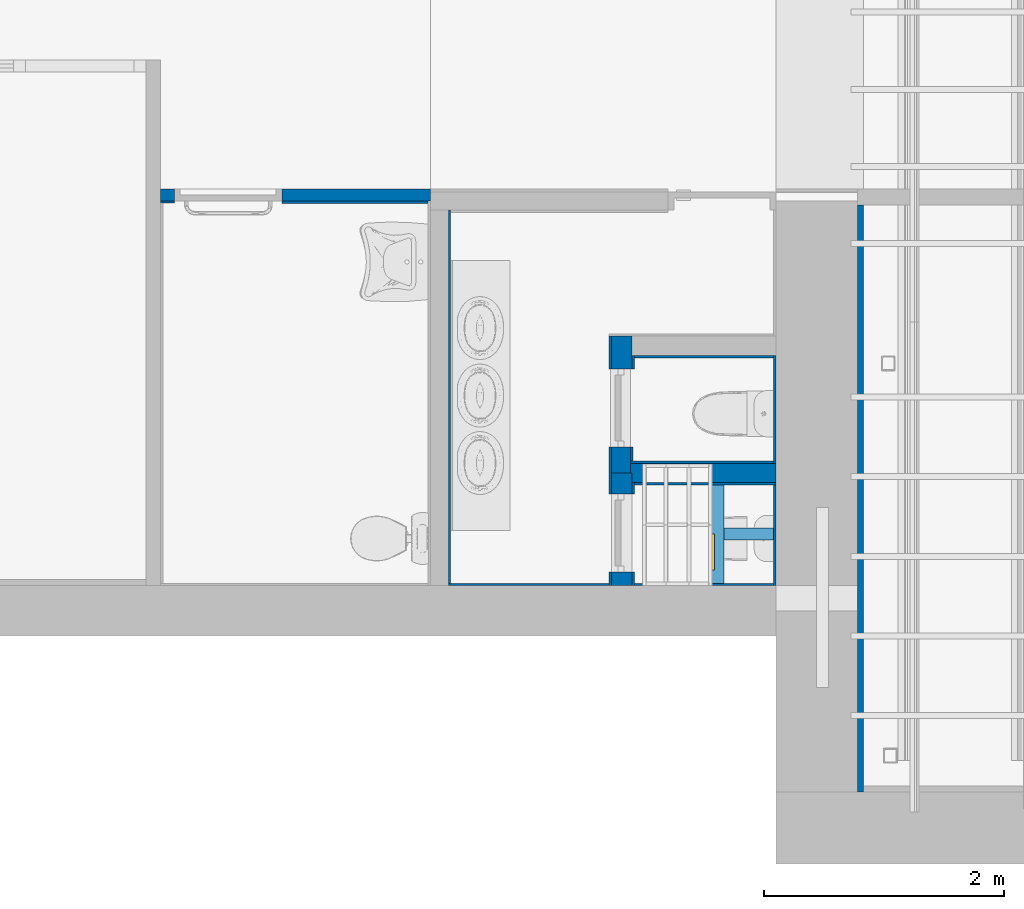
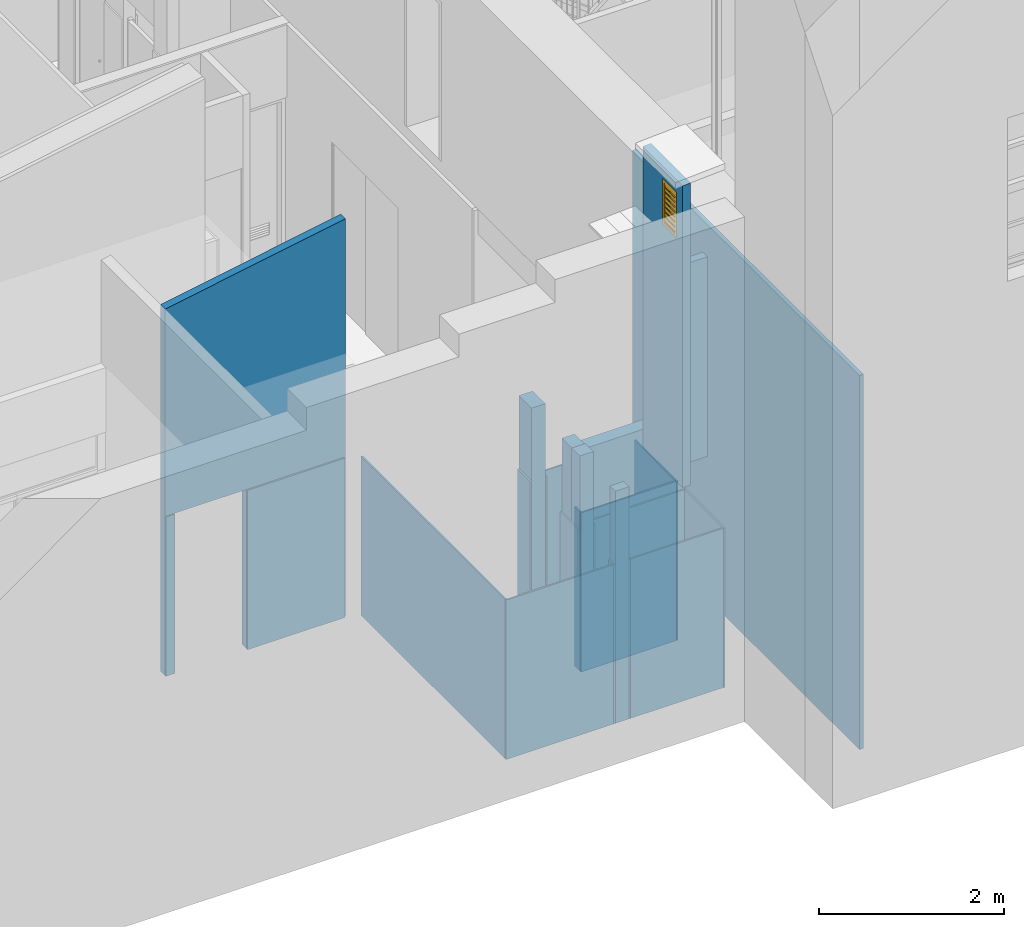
"""IFC2X3 building model written with IfcOpenShell, lengths in metres."""

import ifcopenshell
import ifcopenshell.guid

model = None  # the IFC model being written
_history = None  # IfcOwnerHistory: only IFC2X3 demands one
_inside = {}  # id of a spatial element -> (the spatial element, [elements in it])
_under = {}  # id of a project, library or spatial element -> (it, [spatial elements below it])
_declared = {}  # id of a project -> (the project, [libraries it declares])
_typed = {}  # id of a type object -> (the type object, [elements of that type])
_made_of = {}  # id of a material, layer set ... -> (it, [elements and type objects made of it])


def new_model(schema):
    """Start an empty IFC model of exactly this schema.

    Asked for "IFC4X3", IfcOpenShell would pick the latest addendum, in which some entities
    have other attributes; the version numbers below select the first issue.
    IFC2X3 requires an IfcOwnerHistory on every rooted entity: one is made here for all.
    """
    global model, _history
    if schema == "IFC4X3":
        model = ifcopenshell.file(schema_version=(4, 3, 0, 0))
    else:
        model = ifcopenshell.file(schema=schema)
    _inside.clear()
    _under.clear()
    _declared.clear()
    _typed.clear()
    _made_of.clear()
    _history = None
    if model.schema == "IFC2X3":
        org = make("IfcOrganization", Name="unknown")
        user = make(
            "IfcPersonAndOrganization",
            ThePerson=make("IfcPerson", FamilyName="unknown"),
            TheOrganization=org,
        )
        app = make(
            "IfcApplication",
            ApplicationDeveloper=org,
            Version="unknown",
            ApplicationFullName="unknown",
            ApplicationIdentifier="unknown",
        )
        _history = make(
            "IfcOwnerHistory",
            OwningUser=user,
            OwningApplication=app,
            ChangeAction="ADDED",
            CreationDate=0,
        )
    return model


def make(cls, **values):
    """One entity of the class cls with the attributes given. An attribute that is None is left unset."""
    return model.create_entity(
        cls, **{name: value for name, value in values.items() if value is not None}
    )


def entity(cls, *values):
    """Any entity or typed value of the class cls, its attributes in the order of the schema. None: left unset."""
    e = model.create_entity(cls)
    for i, value in enumerate(values):
        if value is not None:
            e[i] = value
    return e


def rooted(cls, **values):
    """An entity with a GlobalId (a new one), such as an element, a storey or a relation."""
    return make(cls, GlobalId=ifcopenshell.guid.new(), OwnerHistory=_history, **values)


def si_unit(unit_type, name, prefix=None):
    """IfcSIUnit, for example si_unit("LENGTHUNIT", "METRE", prefix="MILLI")."""
    return make("IfcSIUnit", UnitType=unit_type, Prefix=prefix, Name=name)


def converted_unit(unit_type, name, factor, base, dimensions=None, offset=None):
    """IfcConversionBasedUnit, such as the inch: factor (a typed value) times the base unit."""
    return make(
        "IfcConversionBasedUnit"
        if offset is None
        else "IfcConversionBasedUnitWithOffset",
        ConversionOffset=offset,
        Dimensions=None
        if dimensions is None
        else entity("IfcDimensionalExponents", *dimensions),
        UnitType=unit_type,
        Name=name,
        ConversionFactor=make(
            "IfcMeasureWithUnit", ValueComponent=factor, UnitComponent=base
        ),
    )


def derived_unit(unit_type, elements):
    """IfcDerivedUnit: a product of units, each with its exponent."""
    return make(
        "IfcDerivedUnit",
        Elements=[
            make("IfcDerivedUnitElement", Unit=unit, Exponent=power)
            for unit, power in elements
        ],
        UnitType=unit_type,
    )


def assignment(units):
    """IfcUnitAssignment: the units of a project."""
    return None if units is None else make("IfcUnitAssignment", Units=units)


def point(xyz):
    """IfcCartesianPoint."""
    return None if xyz is None else make("IfcCartesianPoint", Coordinates=xyz)


def direction(xyz):
    """IfcDirection."""
    return None if xyz is None else make("IfcDirection", DirectionRatios=xyz)


def frame(location, z_axis=None, x_axis=None):
    """IfcAxis2Placement3D, a coordinate frame: its origin and axes. An axis left out is left unset."""
    return make(
        "IfcAxis2Placement3D",
        Location=point(location),
        Axis=direction(z_axis),
        RefDirection=direction(x_axis),
    )


def frame_2d(location, x_axis=None):
    """IfcAxis2Placement2D, a coordinate frame in the plane: its origin and x axis."""
    return make(
        "IfcAxis2Placement2D", Location=point(location), RefDirection=direction(x_axis)
    )


def origin():
    """The frame at (0, 0, 0) with its axes left unset."""
    return frame((0.0, 0.0, 0.0))


def place(relative_to, where):
    """IfcLocalPlacement: puts the frame where relative to a parent placement (None: the world)."""
    return make(
        "IfcLocalPlacement", PlacementRelTo=relative_to, RelativePlacement=where
    )


def context(
    kind, dimensions, precision=None, world=None, true_north=None, identifier=None
):
    """IfcGeometricRepresentationContext, for example the 3D "Model" context."""
    return make(
        "IfcGeometricRepresentationContext",
        ContextIdentifier=identifier,
        ContextType=kind,
        CoordinateSpaceDimension=dimensions,
        Precision=precision,
        WorldCoordinateSystem=world,
        TrueNorth=true_north,
    )


def subcontext(parent, identifier, kind, view, scale=None):
    """IfcGeometricRepresentationSubContext, for example "Body" below "Model"."""
    return make(
        "IfcGeometricRepresentationSubContext",
        ContextIdentifier=identifier,
        ContextType=kind,
        ParentContext=parent,
        TargetScale=scale,
        TargetView=view,
    )


def project(units=None, contexts=None):
    """IfcProject with its units and contexts."""
    return rooted(
        "IfcProject",
        Name="project",
        RepresentationContexts=contexts,
        UnitsInContext=assignment(units),
    )


def spatial(cls, under=None, at=None, **own):
    """A site, building, storey or space (cls), placed at a placement, below another one or the project."""
    s = rooted(cls, ObjectPlacement=at, **own)
    if under is not None:
        _under.setdefault(under.id(), (under, []))[1].append(s)
    return s


def polyline(points):
    """IfcPolyline through the points."""
    return make("IfcPolyline", Points=[point(p) for p in points])


def profile(cls, at=None, kind="AREA", **sizes):
    """A parametric profile (cls). Its sizes go by their IFC names, for example OverallWidth=200.0."""
    return make(cls, ProfileType=kind, Position=at, **sizes)


def rectangle(**sizes):
    """IfcRectangleProfileDef."""
    return profile("IfcRectangleProfileDef", **sizes)


def outline(outer, holes=None, kind="AREA"):
    """IfcArbitraryClosedProfileDef: a profile drawn as a closed curve; with holes, ...WithVoids."""
    if holes is None:
        return make("IfcArbitraryClosedProfileDef", ProfileType=kind, OuterCurve=outer)
    return make(
        "IfcArbitraryProfileDefWithVoids",
        ProfileType=kind,
        OuterCurve=outer,
        InnerCurves=holes,
    )


def extrude(swept, where, along, depth):
    """IfcExtrudedAreaSolid: the profile swept, set in the frame where, extruded along a direction by depth."""
    return make(
        "IfcExtrudedAreaSolid",
        SweptArea=swept,
        Position=where,
        ExtrudedDirection=direction(along),
        Depth=depth,
    )


def clip(a, b, op="DIFFERENCE"):
    """IfcBooleanClippingResult: the solid a cut by the half space b."""
    return make(
        "IfcBooleanClippingResult", Operator=op, FirstOperand=a, SecondOperand=b
    )


def bounded_halfspace(plane, agree, where, boundary):
    """IfcPolygonalBoundedHalfSpace: a half space limited to a polygon's prism."""
    return make(
        "IfcPolygonalBoundedHalfSpace",
        BaseSurface=make("IfcPlane", Position=plane),
        AgreementFlag=agree,
        Position=where,
        PolygonalBoundary=boundary,
    )


def shape(context_of_items, identifier, shape_type, items):
    """IfcShapeRepresentation: the items that make up one representation, for example the "Body"."""
    return make(
        "IfcShapeRepresentation",
        ContextOfItems=context_of_items,
        RepresentationIdentifier=identifier,
        RepresentationType=shape_type,
        Items=items,
    )


def source(mapping_origin, context_of_items, identifier, shape_type, items):
    """IfcRepresentationMap: a shape defined once, which mapped items show again and again."""
    return make(
        "IfcRepresentationMap",
        MappingOrigin=mapping_origin,
        MappedRepresentation=shape(context_of_items, identifier, shape_type, items),
    )


def transform(
    local_origin,
    x_axis=None,
    y_axis=None,
    z_axis=None,
    scale=None,
    scale2=None,
    scale3=None,
    uniform=True,
):
    """IfcCartesianTransformationOperator3D, or its non-uniform kind. x_axis, y_axis, z_axis: its Axis1, 2, 3."""
    if uniform:
        return make(
            "IfcCartesianTransformationOperator3D",
            Axis1=direction(x_axis),
            Axis2=direction(y_axis),
            LocalOrigin=point(local_origin),
            Scale=scale,
            Axis3=direction(z_axis),
        )
    return make(
        "IfcCartesianTransformationOperator3DnonUniform",
        Axis1=direction(x_axis),
        Axis2=direction(y_axis),
        LocalOrigin=point(local_origin),
        Scale=scale,
        Axis3=direction(z_axis),
        Scale2=scale2,
        Scale3=scale3,
    )


def mapped(mapping_source, mapping_target):
    """IfcMappedItem: shows the shape of a source again, moved by a transform."""
    return make(
        "IfcMappedItem", MappingSource=mapping_source, MappingTarget=mapping_target
    )


def material(Name=None, Category=None):
    """IfcMaterial."""
    return make("IfcMaterial", Name=Name, Category=Category)


def material_list(materials):
    """IfcMaterialList."""
    return make("IfcMaterialList", Materials=materials)


def layer(
    of_material, thickness, ventilated=None, Name=None, Category=None, Priority=None
):
    """IfcMaterialLayer: one layer of a wall or slab, of a material (None: an air gap)."""
    return make(
        "IfcMaterialLayer",
        Material=of_material,
        LayerThickness=thickness,
        IsVentilated=ventilated,
        Name=Name,
        Category=Category,
        Priority=Priority,
    )


def layer_set(layers, Name=None):
    """IfcMaterialLayerSet."""
    return make("IfcMaterialLayerSet", MaterialLayers=layers, LayerSetName=Name)


def layer_usage(for_layer_set, set_direction, sense, offset, extent=None):
    """IfcMaterialLayerSetUsage: how a layer set lies in its element."""
    return make(
        "IfcMaterialLayerSetUsage",
        ForLayerSet=for_layer_set,
        LayerSetDirection=set_direction,
        DirectionSense=sense,
        OffsetFromReferenceLine=offset,
        ReferenceExtent=extent,
    )


def made_of(thing, what):
    """Note that an element or type object is made of a material, layer set ...; save() writes the relation."""
    if what is not None:
        _made_of.setdefault(what.id(), (what, []))[1].append(thing)
    return thing


def type_object(cls, material=None, **own):
    """A type object (cls), such as IfcWallType, which elements share."""
    return made_of(rooted(cls, **own), material)


def type_shapes(of_type, sources):
    """Give a type object the sources (RepresentationMaps) that its elements show as mapped items."""
    of_type.RepresentationMaps = sources


def element(
    cls,
    number,
    at=None,
    inside=None,
    cuts=None,
    type_object=None,
    material=None,
    context=None,
    identifier="Body",
    shape_type=None,
    held_by="IfcProductDefinitionShape",
    body=None,
    shapes=None,
    **own,
):
    """One element of the class cls, such as IfcWall. Its Tag is "e" and its number.

    at: its placement. inside: the storey or other place that contains it. cuts: it is an
    opening in that element (IfcRelVoidsElement). A single representation is given by context,
    identifier, shape_type and body (its items); several are given by shapes. held_by: the class
    of the entity that holds the representations. save() writes the other relations.
    """
    e = rooted(cls, Tag="e%d" % number, ObjectPlacement=at, **own)
    if body is not None:
        shapes = [shape(context, identifier, shape_type, body)]
    if shapes is not None:
        e.Representation = make(held_by, Representations=shapes)
    if inside is not None:
        _inside.setdefault(inside.id(), (inside, []))[1].append(e)
    if cuts is not None:
        rooted(
            "IfcRelVoidsElement", RelatingBuildingElement=cuts, RelatedOpeningElement=e
        )
    if type_object is not None:
        _typed.setdefault(type_object.id(), (type_object, []))[1].append(e)
    return made_of(e, material)


def fill(opening, filler):
    """IfcRelFillsElement: the door or window that sits in an opening."""
    return rooted(
        "IfcRelFillsElement",
        RelatingOpeningElement=opening,
        RelatedBuildingElement=filler,
    )


def aggregate(whole, parts):
    """IfcRelAggregates: a whole, such as a stair, and the parts it consists of."""
    return rooted("IfcRelAggregates", RelatingObject=whole, RelatedObjects=parts)


def save(model, path):
    """Write the relations noted so far, then the file.

    IfcRelAggregates (storeys below a building ...), IfcRelContainedInSpatialStructure (elements
    in a storey), IfcRelDefinesByType, IfcRelAssociatesMaterial and IfcRelDeclares: one each for
    every whole, place, type object, material and project.
    """
    for whole, parts in _under.values():
        aggregate(whole, parts)
    for where, things in _inside.values():
        rooted(
            "IfcRelContainedInSpatialStructure",
            RelatedElements=things,
            RelatingStructure=where,
        )
    for kind, things in _typed.values():
        rooted("IfcRelDefinesByType", RelatedObjects=things, RelatingType=kind)
    for what, things in _made_of.values():
        rooted("IfcRelAssociatesMaterial", RelatedObjects=things, RelatingMaterial=what)
    for by, libraries in _declared.values():
        rooted("IfcRelDeclares", RelatingContext=by, RelatedDefinitions=libraries)
    model.write(path)


model = new_model("IFC2X3")

# Units and contexts
model_context = context("Model", 3, precision=1e-05, world=origin(), true_north=direction((6.12303176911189e-17, 1.0)))
body_context = subcontext(model_context, "Body", "Model", "MODEL_VIEW")
ifc_project = project(units=[si_unit("LENGTHUNIT", "METRE"), si_unit("AREAUNIT", "SQUARE_METRE"), si_unit("VOLUMEUNIT", "CUBIC_METRE"), converted_unit("PLANEANGLEUNIT", "DEGREE", entity("IfcRatioMeasure", 0.0174532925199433), si_unit("PLANEANGLEUNIT", "RADIAN"), dimensions=[0, 0, 0, 0, 0, 0, 0]), si_unit("MASSUNIT", "GRAM", prefix="KILO"), derived_unit("MASSDENSITYUNIT", [(si_unit("MASSUNIT", "GRAM", prefix="KILO"), 1), (si_unit("LENGTHUNIT", "METRE"), -3)]), derived_unit("MOMENTOFINERTIAUNIT", [(si_unit("LENGTHUNIT", "METRE"), 4)]), si_unit("TIMEUNIT", "SECOND"), si_unit("FREQUENCYUNIT", "HERTZ"), si_unit("THERMODYNAMICTEMPERATUREUNIT", "DEGREE_CELSIUS"), derived_unit("THERMALTRANSMITTANCEUNIT", [(si_unit("MASSUNIT", "GRAM", prefix="KILO"), 1), (si_unit("THERMODYNAMICTEMPERATUREUNIT", "KELVIN"), -1), (si_unit("TIMEUNIT", "SECOND"), -3)]), derived_unit("VOLUMETRICFLOWRATEUNIT", [(si_unit("LENGTHUNIT", "METRE"), 3), (si_unit("TIMEUNIT", "SECOND"), -1)]), si_unit("ELECTRICCURRENTUNIT", "AMPERE"), si_unit("ELECTRICVOLTAGEUNIT", "VOLT"), si_unit("POWERUNIT", "WATT"), si_unit("FORCEUNIT", "NEWTON", prefix="KILO"), si_unit("ILLUMINANCEUNIT", "LUX"), si_unit("LUMINOUSFLUXUNIT", "LUMEN"), si_unit("LUMINOUSINTENSITYUNIT", "CANDELA"), derived_unit("USERDEFINED", [(si_unit("MASSUNIT", "GRAM", prefix="KILO"), -1), (si_unit("LENGTHUNIT", "METRE"), -2), (si_unit("TIMEUNIT", "SECOND"), 3), (si_unit("LUMINOUSFLUXUNIT", "LUMEN"), 1)]), derived_unit("LINEARVELOCITYUNIT", [(si_unit("LENGTHUNIT", "METRE"), 1), (si_unit("TIMEUNIT", "SECOND"), -1)]), si_unit("PRESSUREUNIT", "PASCAL"), derived_unit("USERDEFINED", [(si_unit("LENGTHUNIT", "METRE"), -2), (si_unit("MASSUNIT", "GRAM", prefix="KILO"), 1), (si_unit("TIMEUNIT", "SECOND"), -2)]), derived_unit("LINEARFORCEUNIT", [(si_unit("MASSUNIT", "GRAM", prefix="KILO"), 1), (si_unit("LENGTHUNIT", "METRE"), 1), (si_unit("TIMEUNIT", "SECOND"), -2), (si_unit("LENGTHUNIT", "METRE"), -1)]), derived_unit("PLANARFORCEUNIT", [(si_unit("MASSUNIT", "GRAM", prefix="KILO"), 1), (si_unit("LENGTHUNIT", "METRE"), 1), (si_unit("TIMEUNIT", "SECOND"), -2), (si_unit("LENGTHUNIT", "METRE"), -2)])], contexts=[model_context])

# Site, building, storey
site_placement = place(None, origin())
site = spatial("IfcSite", under=ifc_project, at=site_placement, Name="Superficie", CompositionType="ELEMENT")
building_placement = place(site_placement, origin())
building = spatial("IfcBuilding", under=site, at=building_placement, Name="Telegestiones", CompositionType="ELEMENT")
storey_1_placement = place(building_placement, origin())
storey_1 = spatial("IfcBuildingStorey", under=building, at=storey_1_placement, Name="Nivel 0_NPT", CompositionType="ELEMENT", Elevation=0.0)

# Walls
ifc_material_1 = material(Name="Muro por defecto")
ifc_layer_1 = layer(ifc_material_1, 0.17)
ifc_layer_set_1 = layer_set([ifc_layer_1], Name="Muro básico:ARQ-MU-IN-17-Gen")
ifc_layer_usage_1 = layer_usage(ifc_layer_set_1, "AXIS2", "NEGATIVE", 0.085)
wall_type_1 = type_object("IfcWallType", Name="Muro básico:ARQ-MU-IN-17-Gen", PredefinedType="STANDARD", material=ifc_layer_set_1)
wall_1_placement = place(storey_1_placement, frame((4.0698126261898, -4.086392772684, 0.0), z_axis=(0.0, 0.0, 1.0), x_axis=(0.0, 1.0, 0.0)))
element("IfcWallStandardCase", 1, at=wall_1_placement, inside=storey_1, type_object=wall_type_1, material=ifc_layer_usage_1, Name="Muro básico:ARQ-MU-IN-17-Gen", ObjectType="Muro básico:ARQ-MU-IN-17-Gen", context=body_context, shape_type="SweptSolid", body=[
    extrude(rectangle(XDim=0.115027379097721, YDim=0.17, at=frame_2d((0.0575136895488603, 4.16333634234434e-17), x_axis=(-1.0, 0.0))), origin(), (0.0, 0.0, 1.0), 3.06),
])
ifc_layer_usage_2 = layer_usage(ifc_layer_set_1, "AXIS2", "POSITIVE", -0.085)
wall_2_placement = place(storey_1_placement, frame((4.06981262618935, -2.28139277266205, 0.0), z_axis=(0.0, 0.0, 1.0), x_axis=(0.0, 1.0, 0.0)))
element("IfcWallStandardCase", 2, at=wall_2_placement, inside=storey_1, type_object=wall_type_1, material=ifc_layer_usage_2, Name="Muro básico:ARQ-MU-IN-17-Gen", ObjectType="Muro básico:ARQ-MU-IN-17-Gen", context=body_context, shape_type="SweptSolid", body=[
    extrude(rectangle(XDim=0.274999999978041, YDim=0.17, at=frame_2d((0.137499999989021, -2.08166817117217e-17), x_axis=(-1.0, 0.0))), origin(), (0.0, 0.0, 1.0), 3.06),
])
ifc_layer_usage_3 = layer_usage(ifc_layer_set_1, "AXIS2", "NEGATIVE", 0.085)
wall_3_placement = place(storey_1_placement, frame((4.06981262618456, -3.14639277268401, 0.0), z_axis=(0.0, 0.0, 1.0), x_axis=(0.0, -1.0, 0.0)))
element("IfcWallStandardCase", 3, at=wall_3_placement, inside=storey_1, type_object=wall_type_1, material=ifc_layer_usage_3, Name="Muro básico:ARQ-MU-IN-17-Gen", ObjectType="Muro básico:ARQ-MU-IN-17-Gen", context=body_context, shape_type="SweptSolid", body=[
    extrude(rectangle(XDim=0.174999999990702, YDim=0.17, at=frame_2d((0.0874999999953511, 0.0), x_axis=(-1.0, 0.0))), origin(), (0.0, 0.0, 1.0), 3.06),
])

# Wall, opening
ifc_layer_2 = layer(ifc_material_1, 0.16)
ifc_layer_set_2 = layer_set([ifc_layer_2], Name="Muro básico:ARQ-MU-IN-16-Gen")
ifc_layer_usage_4 = layer_usage(ifc_layer_set_2, "AXIS2", "NEGATIVE", 0.08)
wall_type_2 = type_object("IfcWallType", Name="Muro básico:ARQ-MU-IN-16-Gen", PredefinedType="STANDARD", material=ifc_layer_set_2)
wall_4_placement = place(storey_1_placement, frame((5.35428977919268, -3.14639277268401, 0.0), z_axis=(0.0, 0.0, 1.0), x_axis=(-1.0, 0.0, 0.0)))
wall_4 = element("IfcWallStandardCase", 4, at=wall_4_placement, inside=storey_1, type_object=wall_type_2, material=ifc_layer_usage_4, Name="Muro básico:ARQ-MU-IN-16-Gen", ObjectType="Muro básico:ARQ-MU-IN-16-Gen", context=body_context, shape_type="SweptSolid", body=[
    extrude(outline(polyline([(-0.0914285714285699, -0.352707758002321), (-0.0114285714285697, -0.352707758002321), (-0.0114285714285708, -0.342707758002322), (0.0685714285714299, -0.342707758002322), (0.0685714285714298, -0.322707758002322), (0.0685714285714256, 0.856769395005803), (-0.0914285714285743, 0.856769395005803), (-0.0914285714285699, -0.352707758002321)])), frame((0.856769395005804, 0.0114285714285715, 0.0), z_axis=(0.0, 0.0, 1.0), x_axis=(0.0, 1.0, 0.0)), (0.0, 0.0, 1.0), 3.06),
])
opening_1_placement = place(storey_1_placement, frame((5.35428977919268, -3.14639277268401, 0.0), z_axis=(0.0, 0.0, 1.0), x_axis=(-1.0, 0.0, 0.0)))
element("IfcOpeningElement", 5, at=opening_1_placement, cuts=wall_4, Name="Muro básico:ARQ-MU-IN-16-Gen:1", ObjectType="Opening", context=body_context, shape_type="SweptSolid", body=[
    extrude(rectangle(XDim=0.15, YDim=0.4, at=frame_2d((2.70616862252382e-16, 0.0), x_axis=(1.0, 0.0))), frame((0.312026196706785, 0.0800000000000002, 2.887), z_axis=(0.0, -1.0, 0.0), x_axis=(0.0, 0.0, -1.0)), (0.0, 0.0, 1.0), 0.16),
])

# Walls
ifc_layer_usage_5 = layer_usage(ifc_layer_set_2, "AXIS2", "POSITIVE", -0.08)
wall_5_placement = place(storey_1_placement, frame((4.06481262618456, -3.14639277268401, 0.0), z_axis=(0.0, 0.0, 1.0), x_axis=(0.0, 1.0, 0.0)))
element("IfcWallStandardCase", 6, at=wall_5_placement, inside=storey_1, type_object=wall_type_2, material=ifc_layer_usage_5, Name="Muro básico:ARQ-MU-IN-16-Gen", ObjectType="Muro básico:ARQ-MU-IN-16-Gen", context=body_context, shape_type="SweptSolid", body=[
    extrude(rectangle(XDim=0.215000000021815, YDim=0.16, at=frame_2d((0.107500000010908, 9.0205620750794e-17), x_axis=(-1.0, 0.0))), origin(), (0.0, 0.0, 1.0), 3.06),
])
ifc_material_2 = material(Name="Placa yeso entera")
ifc_layer_3 = layer(ifc_material_2, 0.012)
ifc_material_3 = material(Name="Estructura de Hierro Galvanizado")
ifc_layer_4 = layer(ifc_material_3, 0.038)
ifc_layer_set_3 = layer_set([ifc_layer_3, ifc_layer_4], Name="Muro básico:ARQ-RE-IN-5-Ye-M2")
ifc_layer_usage_6 = layer_usage(ifc_layer_set_3, "AXIS2", "NEGATIVE", 0.025)
wall_type_3 = type_object("IfcWallType", Name="Muro básico:ARQ-RE-IN-5-Ye-M2", PredefinedType="STANDARD", material=ifc_layer_set_3)
wall_6_placement = place(storey_1_placement, frame((6.05928977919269, -0.911462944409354, -0.0199999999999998), z_axis=(0.0, 0.0, 1.0), x_axis=(0.0, -1.0, 0.0)))
element("IfcWallStandardCase", 7, at=wall_6_placement, inside=storey_1, type_object=wall_type_3, material=ifc_layer_usage_6, Name="Muro básico:ARQ-RE-IN-5-Ye-M2", ObjectType="Muro básico:ARQ-RE-IN-5-Ye-M2", context=body_context, shape_type="SweptSolid", body=[
    extrude(rectangle(XDim=4.89490417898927, YDim=0.0499999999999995, at=frame_2d((2.44745208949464, -1.73472347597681e-17), x_axis=(-1.0, 0.0))), origin(), (0.0, 0.0, 1.0), 4.93),
])

# Wall, opening
ifc_layer_5 = layer(ifc_material_2, 0.012)
ifc_layer_6 = layer(ifc_material_3, 0.073)
ifc_layer_7 = layer(ifc_material_2, 0.015)
ifc_layer_set_4 = layer_set([ifc_layer_5, ifc_layer_6, ifc_layer_7], Name="Muro básico:ARQ-MU-IN-10-Ye-T6")
ifc_layer_usage_7 = layer_usage(ifc_layer_set_4, "AXIS2", "POSITIVE", -0.05)
wall_type_4 = type_object("IfcWallType", Name="Muro básico:ARQ-MU-IN-10-Ye-T6", PredefinedType="STANDARD", material=ifc_layer_set_4)
wall_7_placement = place(storey_1_placement, frame((2.47481262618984, -0.831462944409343, 0.0), z_axis=(0.0, 0.0, 1.0), x_axis=(-1.0, 0.0, 0.0)))
wall_7 = element("IfcWallStandardCase", 8, at=wall_7_placement, inside=storey_1, type_object=wall_type_4, material=ifc_layer_usage_7, Name="Muro básico:ARQ-MU-IN-10-Ye-T6", ObjectType="Muro básico:ARQ-MU-IN-10-Ye-T6", context=body_context, shape_type="Clipping", body=[
    clip(extrude(rectangle(XDim=2.24816016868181, YDim=0.1, at=frame_2d((1.1240800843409, -3.46944695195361e-18), x_axis=(-1.0, 0.0))), origin(), (0.0, 0.0, 1.0), 5.23680000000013), bounded_halfspace(frame((0.0, -0.05, 5.23680000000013), z_axis=(0.177152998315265, 0.0, 0.984183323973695), x_axis=(0.0, 1.0, 0.0)), False, frame((0.0, -0.05, 5.23680000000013)), polyline([(0.0, 0.0), (2.2481601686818, 0.0), (2.2481601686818, 0.0999999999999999), (0.0, 0.1), (0.0, 0.0)]))),
])
opening_2_placement = place(wall_7_placement, frame((2.13416016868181, 0.049999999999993, 0.0)))
element("IfcOpeningElement", 9, at=opening_2_placement, cuts=wall_7, Name="ARQ-PU-IN-Barra accesible:210x90 cm:1", ObjectType="Opening", context=body_context, shape_type="SweptSolid", body=[
    extrude(rectangle(XDim=2.09999999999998, YDim=0.9, at=frame_2d((1.04999999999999, 0.45), x_axis=(1.0, 0.0))), frame((0.0, 0.0, 0.0), z_axis=(0.0, -1.0, 0.0), x_axis=(0.0, 0.0, 1.0)), (0.0, 0.0, 1.0), 0.1),
])

# Walls
ifc_material_4 = material(Name="Hormigón, Moldeado in situ, gris")
ifc_layer_8 = layer(ifc_material_4, 0.01)
ifc_material_5 = material(Name="Ceramica - Ferrum - Blanco")
ifc_layer_9 = layer(ifc_material_5, 0.01)
ifc_layer_set_5 = layer_set([ifc_layer_8, ifc_layer_9], Name="Muro básico:ARQ-RE-IN-2-Cer")
ifc_layer_usage_8 = layer_usage(ifc_layer_set_5, "AXIS2", "POSITIVE", -0.01)
wall_type_5 = type_object("IfcWallType", Name="Muro básico:ARQ-RE-IN-2-Cer", PredefinedType="STANDARD", material=ifc_layer_set_5)
wall_8_placement = place(storey_1_placement, frame((2.45481262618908, -0.891462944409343, 0.0), z_axis=(0.0, 0.0, 1.0), x_axis=(-1.0, 0.0, 0.0)))
element("IfcWallStandardCase", 10, at=wall_8_placement, inside=storey_1, type_object=wall_type_5, material=ifc_layer_usage_8, Name="Muro básico:ARQ-RE-IN-2-Cer", ObjectType="Muro básico:ARQ-RE-IN-2-Cer", context=body_context, shape_type="SweptSolid", body=[
    extrude(rectangle(XDim=1.21416016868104, YDim=0.0200000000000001, at=frame_2d((0.60708008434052, -1.73472347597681e-17), x_axis=(-1.0, 0.0))), origin(), (0.0, 0.0, 1.0), 2.1),
])
ifc_layer_usage_9 = layer_usage(ifc_layer_set_5, "AXIS2", "NEGATIVE", 0.01)
wall_9_placement = place(storey_1_placement, frame((3.97481262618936, -2.006392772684, 0.0), z_axis=(0.0, 0.0, 1.0), x_axis=(0.0, -1.0, 0.0)))
element("IfcWallStandardCase", 11, at=wall_9_placement, inside=storey_1, type_object=wall_type_5, material=ifc_layer_usage_9, Name="Muro básico:ARQ-RE-IN-2-Cer", ObjectType="Muro básico:ARQ-RE-IN-2-Cer", context=body_context, shape_type="SweptSolid", body=[
    extrude(rectangle(XDim=0.274999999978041, YDim=0.0199999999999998, at=frame_2d((0.13749999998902, 0.0), x_axis=(-1.0, 0.0))), origin(), (0.0, 0.0, 1.0), 2.1),
])
ifc_layer_usage_10 = layer_usage(ifc_layer_set_5, "AXIS2", "NEGATIVE", 0.01)
wall_10_placement = place(storey_1_placement, frame((4.16481262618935, -2.28139277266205, 0.0), z_axis=(0.0, 0.0, 1.0), x_axis=(0.0, 1.0, 0.0)))
element("IfcWallStandardCase", 12, at=wall_10_placement, inside=storey_1, type_object=wall_type_5, material=ifc_layer_usage_10, Name="Muro básico:ARQ-RE-IN-2-Cer", ObjectType="Muro básico:ARQ-RE-IN-2-Cer", context=body_context, shape_type="SweptSolid", body=[
    extrude(rectangle(XDim=0.114999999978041, YDim=0.0199999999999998, at=frame_2d((0.0574999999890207, 0.0), x_axis=(-1.0, 0.0))), origin(), (0.0, 0.0, 1.0), 2.1),
])
ifc_layer_usage_11 = layer_usage(ifc_layer_set_5, "AXIS2", "NEGATIVE", 0.01)
wall_11_placement = place(storey_1_placement, frame((4.17481262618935, -2.176392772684, 0.0)))
element("IfcWallStandardCase", 13, at=wall_11_placement, inside=storey_1, type_object=wall_type_5, material=ifc_layer_usage_11, Name="Muro básico:ARQ-RE-IN-2-Cer", ObjectType="Muro básico:ARQ-RE-IN-2-Cer", context=body_context, shape_type="SweptSolid", body=[
    extrude(rectangle(XDim=1.17947715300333, YDim=0.0199999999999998, at=frame_2d((0.589738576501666, 0.0), x_axis=(-1.0, 0.0))), origin(), (0.0, 0.0, 1.0), 2.1),
])
ifc_layer_usage_12 = layer_usage(ifc_layer_set_5, "AXIS2", "NEGATIVE", 0.01)
wall_12_placement = place(storey_1_placement, frame((5.34428977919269, -2.16639277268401, 0.0), z_axis=(0.0, 0.0, 1.0), x_axis=(0.0, -1.0, 0.0)))
element("IfcWallStandardCase", 14, at=wall_12_placement, inside=storey_1, type_object=wall_type_5, material=ifc_layer_usage_12, Name="Muro básico:ARQ-RE-IN-2-Cer", ObjectType="Muro básico:ARQ-RE-IN-2-Cer", context=body_context, shape_type="SweptSolid", body=[
    extrude(rectangle(XDim=0.900000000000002, YDim=0.0199999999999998, at=frame_2d((0.450000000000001, 0.0), x_axis=(-1.0, 0.0))), origin(), (0.0, 0.0, 1.0), 2.1),
])
ifc_layer_usage_13 = layer_usage(ifc_layer_set_5, "AXIS2", "NEGATIVE", 0.01)
wall_13_placement = place(storey_1_placement, frame((5.33428977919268, -3.05639277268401, 0.0), z_axis=(0.0, 0.0, 1.0), x_axis=(-1.0, 0.0, 0.0)))
element("IfcWallStandardCase", 15, at=wall_13_placement, inside=storey_1, type_object=wall_type_5, material=ifc_layer_usage_13, Name="Muro básico:ARQ-RE-IN-2-Cer", ObjectType="Muro básico:ARQ-RE-IN-2-Cer", context=body_context, shape_type="SweptSolid", body=[
    extrude(rectangle(XDim=1.18947715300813, YDim=0.0199999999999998, at=frame_2d((0.594738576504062, -3.20923843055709e-17), x_axis=(-1.0, 0.0))), origin(), (0.0, 0.0, 1.0), 2.1),
])
ifc_layer_usage_14 = layer_usage(ifc_layer_set_5, "AXIS2", "NEGATIVE", 0.01)
wall_14_placement = place(storey_1_placement, frame((4.15481262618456, -3.04639277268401, 0.0), z_axis=(0.0, 0.0, 1.0), x_axis=(0.0, 1.0, 0.0)))
element("IfcWallStandardCase", 16, at=wall_14_placement, inside=storey_1, type_object=wall_type_5, material=ifc_layer_usage_14, Name="Muro básico:ARQ-RE-IN-2-Cer", ObjectType="Muro básico:ARQ-RE-IN-2-Cer", context=body_context, shape_type="SweptSolid", body=[
    extrude(rectangle(XDim=0.115000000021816, YDim=0.0199999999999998, at=frame_2d((0.0575000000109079, 0.0), x_axis=(-1.0, 0.0))), origin(), (0.0, 0.0, 1.0), 2.1),
])
ifc_layer_usage_15 = layer_usage(ifc_layer_set_5, "AXIS2", "NEGATIVE", 0.01)
wall_15_placement = place(storey_1_placement, frame((3.97481262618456, -2.93139277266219, 0.0), z_axis=(0.0, 0.0, 1.0), x_axis=(0.0, -1.0, 0.0)))
element("IfcWallStandardCase", 17, at=wall_15_placement, inside=storey_1, type_object=wall_type_5, material=ifc_layer_usage_15, Name="Muro básico:ARQ-RE-IN-2-Cer", ObjectType="Muro básico:ARQ-RE-IN-2-Cer", context=body_context, shape_type="SweptSolid", body=[
    extrude(rectangle(XDim=0.390000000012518, YDim=0.0199999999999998, at=frame_2d((0.195000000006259, 0.0), x_axis=(-1.0, 0.0))), origin(), (0.0, 0.0, 1.0), 2.1),
])
ifc_layer_usage_16 = layer_usage(ifc_layer_set_5, "AXIS2", "NEGATIVE", 0.01)
wall_16_placement = place(storey_1_placement, frame((4.16481262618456, -3.32139277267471, 0.0), z_axis=(0.0, 0.0, 1.0), x_axis=(0.0, 1.0, 0.0)))
element("IfcWallStandardCase", 18, at=wall_16_placement, inside=storey_1, type_object=wall_type_5, material=ifc_layer_usage_16, Name="Muro básico:ARQ-RE-IN-2-Cer", ObjectType="Muro básico:ARQ-RE-IN-2-Cer", context=body_context, shape_type="SweptSolid", body=[
    extrude(rectangle(XDim=0.0949999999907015, YDim=0.0199999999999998, at=frame_2d((0.0474999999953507, 0.0), x_axis=(-1.0, 0.0))), origin(), (0.0, 0.0, 1.0), 2.1),
])
ifc_layer_usage_17 = layer_usage(ifc_layer_set_5, "AXIS2", "NEGATIVE", 0.01)
wall_17_placement = place(storey_1_placement, frame((4.17481262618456, -3.23639277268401, 0.0)))
element("IfcWallStandardCase", 19, at=wall_17_placement, inside=storey_1, type_object=wall_type_5, material=ifc_layer_usage_17, Name="Muro básico:ARQ-RE-IN-2-Cer", ObjectType="Muro básico:ARQ-RE-IN-2-Cer", context=body_context, shape_type="SweptSolid", body=[
    extrude(rectangle(XDim=1.17947715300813, YDim=0.0199999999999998, at=frame_2d((0.589738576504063, 0.0), x_axis=(-1.0, 0.0))), origin(), (0.0, 0.0, 1.0), 2.1),
])
ifc_layer_usage_18 = layer_usage(ifc_layer_set_5, "AXIS2", "NEGATIVE", 0.01)
wall_18_placement = place(storey_1_placement, frame((5.34428977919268, -3.24639277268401, 0.0), z_axis=(0.0, 0.0, 1.0), x_axis=(0.0, -1.0, 0.0)))
element("IfcWallStandardCase", 20, at=wall_18_placement, inside=storey_1, type_object=wall_type_5, material=ifc_layer_usage_18, Name="Muro básico:ARQ-RE-IN-2-Cer", ObjectType="Muro básico:ARQ-RE-IN-2-Cer", context=body_context, shape_type="SweptSolid", body=[
    extrude(rectangle(XDim=0.839999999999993, YDim=0.0199999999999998, at=frame_2d((0.419999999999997, -1.30104260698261e-17), x_axis=(-1.0, 0.0))), origin(), (0.0, 0.0, 1.0), 2.1),
])
ifc_layer_usage_19 = layer_usage(ifc_layer_set_5, "AXIS2", "NEGATIVE", 0.01)
wall_19_placement = place(storey_1_placement, frame((5.35428977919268, -4.076392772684, 0.0), z_axis=(0.0, 0.0, 1.0), x_axis=(-1.0, 0.0, 0.0)))
element("IfcWallStandardCase", 21, at=wall_19_placement, inside=storey_1, type_object=wall_type_5, material=ifc_layer_usage_19, Name="Muro básico:ARQ-RE-IN-2-Cer", ObjectType="Muro básico:ARQ-RE-IN-2-Cer", context=body_context, shape_type="SweptSolid", body=[
    extrude(rectangle(XDim=1.19947715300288, YDim=0.0199999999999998, at=frame_2d((0.59973857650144, 0.0), x_axis=(-1.0, 0.0))), origin(), (0.0, 0.0, 1.0), 2.1),
])
ifc_layer_usage_20 = layer_usage(ifc_layer_set_5, "AXIS2", "NEGATIVE", 0.01)
wall_20_placement = place(storey_1_placement, frame((4.1648126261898, -4.086392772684, 0.0), z_axis=(0.0, 0.0, 1.0), x_axis=(0.0, 1.0, 0.0)))
element("IfcWallStandardCase", 22, at=wall_20_placement, inside=storey_1, type_object=wall_type_5, material=ifc_layer_usage_20, Name="Muro básico:ARQ-RE-IN-2-Cer", ObjectType="Muro básico:ARQ-RE-IN-2-Cer", context=body_context, shape_type="SweptSolid", body=[
    extrude(rectangle(XDim=0.11502737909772, YDim=0.0199999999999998, at=frame_2d((0.0575136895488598, 0.0), x_axis=(-1.0, 0.0))), origin(), (0.0, 0.0, 1.0), 2.1),
])
ifc_layer_usage_21 = layer_usage(ifc_layer_set_5, "AXIS2", "NEGATIVE", 0.01)
wall_21_placement = place(storey_1_placement, frame((3.9748126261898, -3.97136539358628, 0.0), z_axis=(0.0, 0.0, 1.0), x_axis=(0.0, -1.0, 0.0)))
element("IfcWallStandardCase", 23, at=wall_21_placement, inside=storey_1, type_object=wall_type_5, material=ifc_layer_usage_21, Name="Muro básico:ARQ-RE-IN-2-Cer", ObjectType="Muro básico:ARQ-RE-IN-2-Cer", context=body_context, shape_type="SweptSolid", body=[
    extrude(rectangle(XDim=0.115027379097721, YDim=0.0199999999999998, at=frame_2d((0.0575136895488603, 0.0), x_axis=(-1.0, 0.0))), origin(), (0.0, 0.0, 1.0), 2.1),
])
ifc_layer_usage_22 = layer_usage(ifc_layer_set_5, "AXIS2", "NEGATIVE", 0.01)
wall_22_placement = place(storey_1_placement, frame((3.9848126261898, -4.076392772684, 0.0), z_axis=(0.0, 0.0, 1.0), x_axis=(-1.0, 0.0, 0.0)))
element("IfcWallStandardCase", 24, at=wall_22_placement, inside=storey_1, type_object=wall_type_5, material=ifc_layer_usage_22, Name="Muro básico:ARQ-RE-IN-2-Cer", ObjectType="Muro básico:ARQ-RE-IN-2-Cer", context=body_context, shape_type="SweptSolid", body=[
    extrude(rectangle(XDim=1.35999999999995, YDim=0.0199999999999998, at=frame_2d((0.679999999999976, 0.0), x_axis=(-1.0, 0.0))), origin(), (0.0, 0.0, 1.0), 2.1),
])
ifc_layer_usage_23 = layer_usage(ifc_layer_set_5, "AXIS2", "NEGATIVE", 0.01)
wall_23_placement = place(storey_1_placement, frame((2.63481262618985, -4.086392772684, 0.0), z_axis=(0.0, 0.0, 1.0), x_axis=(0.0, 1.0, 0.0)))
element("IfcWallStandardCase", 25, at=wall_23_placement, inside=storey_1, type_object=wall_type_5, material=ifc_layer_usage_23, Name="Muro básico:ARQ-RE-IN-2-Cer", ObjectType="Muro básico:ARQ-RE-IN-2-Cer", context=body_context, shape_type="SweptSolid", body=[
    extrude(rectangle(XDim=3.12992982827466, YDim=0.0199999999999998, at=frame_2d((1.56496491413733, 1.04083408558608e-17), x_axis=(-1.0, 0.0))), origin(), (0.0, 0.0, 1.0), 2.1),
])
ifc_layer_10 = layer(ifc_material_4, 0.005)
ifc_layer_11 = layer(ifc_material_5, 0.009)
ifc_layer_set_6 = layer_set([ifc_layer_10, ifc_layer_11], Name="Muro básico:ARQ-RE-IN-1.4-Cer")
ifc_layer_usage_24 = layer_usage(ifc_layer_set_6, "AXIS2", "POSITIVE", -0.007)
wall_type_6 = type_object("IfcWallType", Name="Muro básico:ARQ-RE-IN-1.4-Cer", PredefinedType="STANDARD", material=ifc_layer_set_6)
wall_24_placement = place(storey_1_placement, frame((0.340652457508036, -0.888462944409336, 0.0), z_axis=(0.0, 0.0, 1.0), x_axis=(-1.0, 0.0, 0.0)))
element("IfcWallStandardCase", 26, at=wall_24_placement, inside=storey_1, type_object=wall_type_6, material=ifc_layer_usage_24, Name="Muro básico:ARQ-RE-IN-1.4-Cer", ObjectType="Muro básico:ARQ-RE-IN-1.4-Cer", context=body_context, shape_type="SweptSolid", body=[
    extrude(rectangle(XDim=0.114, YDim=0.0140000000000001, at=frame_2d((0.0570000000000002, 1.30104260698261e-17), x_axis=(-1.0, 0.0))), origin(), (0.0, 0.0, 1.0), 2.1),
])

# Wall, opening
ifc_layer_12 = layer(ifc_material_2, 0.015)
ifc_layer_13 = layer(ifc_material_3, 0.07)
ifc_layer_14 = layer(ifc_material_2, 0.015)
ifc_layer_set_7 = layer_set([ifc_layer_12, ifc_layer_13, ifc_layer_14], Name="Muro básico:ARQ-MU-IN-10-Ye-T8")
ifc_layer_usage_25 = layer_usage(ifc_layer_set_7, "AXIS2", "NEGATIVE", 0.05)
wall_type_7 = type_object("IfcWallType", Name="Muro básico:ARQ-MU-IN-10-Ye-T8", PredefinedType="STANDARD", material=ifc_layer_set_7)
wall_25_placement = place(storey_1_placement, frame((4.87428977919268, -4.086392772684, 2.812), z_axis=(0.0, 0.0, 1.0), x_axis=(0.0, 1.0, 0.0)))
wall_25 = element("IfcWallStandardCase", 27, at=wall_25_placement, inside=storey_1, type_object=wall_type_7, material=ifc_layer_usage_25, Name="Muro básico:ARQ-MU-IN-10-Ye-T8", ObjectType="Muro básico:ARQ-MU-IN-10-Ye-T8", context=body_context, shape_type="Clipping", body=[
    clip(extrude(rectangle(XDim=0.859999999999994, YDim=0.100000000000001, at=frame_2d((0.429999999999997, -2.70616862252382e-16), x_axis=(-1.0, 0.0))), origin(), (0.0, 0.0, 1.0), 3.98205612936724), bounded_halfspace(frame((0.0, -0.0500000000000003, 3.98205612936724), z_axis=(0.0, 0.0598922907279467, 0.998204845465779), x_axis=(1.0, 0.0, 0.0)), False, frame((0.0, -0.0500000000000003, 3.98205612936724)), polyline([(0.0, 0.0), (0.0299999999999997, 0.0), (0.13, 0.0), (0.379999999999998, 0.0), (0.479999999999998, 0.0), (0.759999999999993, 0.0), (0.859999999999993, 0.0), (0.859999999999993, 0.100000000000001), (0.0, 0.100000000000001), (0.0, 0.0)]))),
])
opening_3_placement = place(wall_25_placement, frame((0.13, -0.0500000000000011, 3.21259517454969)))
opening_3 = element("IfcOpeningElement", 28, at=opening_3_placement, cuts=wall_25, Name="ARQ-Rejilla ventilación:ARQ-Rejilla ventilación:1", ObjectType="Opening", context=body_context, shape_type="SweptSolid", body=[
    extrude(rectangle(XDim=0.6, YDim=0.3, at=frame_2d((0.3, 0.15), x_axis=(1.0, 0.0))), frame((0.0, 0.0, 0.0), z_axis=(0.0, 1.0, 0.0), x_axis=(0.0, 0.0, 1.0)), (0.0, 0.0, 1.0), 0.1),
])

# Storey
storey_2_placement = place(building_placement, frame((0.0, 0.0, 4.94)))
storey_2 = spatial("IfcBuildingStorey", under=building, at=storey_2_placement, Name="Nivel 1_NPT", CompositionType="ELEMENT", Elevation=4.94)

# Window
ifc_material_6 = material(Name="Aluminio (1)")
ifc_material_list_1 = material_list([ifc_material_6, ifc_material_6, ifc_material_6, ifc_material_6, ifc_material_6, ifc_material_6, ifc_material_6, ifc_material_6, ifc_material_6, ifc_material_6])
ifc_material_list_2 = material_list([ifc_material_6, ifc_material_6, ifc_material_6, ifc_material_6, ifc_material_6, ifc_material_6, ifc_material_6, ifc_material_6, ifc_material_6, ifc_material_6])
window_style = type_object("IfcWindowStyle", Name="ARQ-Rejilla ventilación:ARQ-Rejilla ventilación", ConstructionType="NOTDEFINED", OperationType="NOTDEFINED", ParameterTakesPrecedence=False, Sizeable=False, material=ifc_material_list_2)
shared_shape = source(origin(), body_context, "Body", "SweptSolid", [
    extrude(outline(polyline([(-0.01, -0.0325000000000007), (-0.00453733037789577, -0.0325000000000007), (0.00999999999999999, 0.032500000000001), (0.00453733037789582, 0.032500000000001), (-0.01, -0.0325000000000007)])), frame((0.0300000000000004, 0.0900000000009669, 0.537499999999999), z_axis=(1.0, 0.0, 0.0), x_axis=(0.0, -1.0, 0.0)), (0.0, 0.0, 1.0), 0.24),
    extrude(outline(polyline([(-0.0100000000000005, -0.032500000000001), (-0.00453733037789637, -0.032500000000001), (0.0100000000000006, 0.0325000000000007), (0.00453733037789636, 0.0325000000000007), (-0.0100000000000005, -0.032500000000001)])), frame((0.0300000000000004, 0.0900000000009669, 0.212499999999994), z_axis=(1.0, 0.0, 0.0), x_axis=(0.0, -1.0, 0.0)), (0.0, 0.0, 1.0), 0.24),
    extrude(outline(polyline([(-0.010000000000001, -0.0325000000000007), (-0.00453733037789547, -0.0325000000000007), (0.0100000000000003, 0.032500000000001), (0.00453733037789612, 0.032500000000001), (-0.010000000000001, -0.0325000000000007)])), frame((0.0300000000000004, 0.0900000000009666, 0.147499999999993), z_axis=(1.0, 0.0, 0.0), x_axis=(0.0, -1.0, 0.0)), (0.0, 0.0, 1.0), 0.24),
    extrude(outline(polyline([(-0.0100000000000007, -0.0325000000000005), (-0.00453733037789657, -0.0325000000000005), (0.0100000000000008, 0.0325000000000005), (0.00453733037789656, 0.0325000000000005), (-0.0100000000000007, -0.0325000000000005)])), frame((0.0300000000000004, 0.0900000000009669, 0.0824999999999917), z_axis=(1.0, 0.0, 0.0), x_axis=(0.0, -1.0, 0.0)), (0.0, 0.0, 1.0), 0.24),
    extrude(outline(polyline([(-0.0049678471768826, -0.0099999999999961), (0.000494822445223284, -0.0099999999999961), (0.00496784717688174, 0.00999999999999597), (-0.000494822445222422, 0.00999999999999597), (-0.0049678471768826, -0.0099999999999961)])), frame((0.0300000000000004, 0.0950321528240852, 0.0399999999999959), z_axis=(1.0, 0.0, 0.0), x_axis=(0.0, -1.0, 0.0)), (0.0, 0.0, 1.0), 0.24),
    extrude(outline(polyline([(-0.0100000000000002, -0.032500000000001), (-0.00453733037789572, -0.032500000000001), (0.0100000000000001, 0.0325000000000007), (0.00453733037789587, 0.0325000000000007), (-0.0100000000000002, -0.032500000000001)])), frame((0.0300000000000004, 0.0900000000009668, 0.472499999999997), z_axis=(1.0, 0.0, 0.0), x_axis=(0.0, -1.0, 0.0)), (0.0, 0.0, 1.0), 0.24),
    extrude(outline(polyline([(-0.0100000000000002, -0.0325000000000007), (-0.00453733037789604, -0.0325000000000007), (0.0100000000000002, 0.032500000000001), (0.00453733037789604, 0.032500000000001), (-0.0100000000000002, -0.0325000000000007)])), frame((0.0300000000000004, 0.0900000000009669, 0.407499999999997), z_axis=(1.0, 0.0, 0.0), x_axis=(0.0, -1.0, 0.0)), (0.0, 0.0, 1.0), 0.24),
    extrude(outline(polyline([(-0.0100000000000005, -0.032500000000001), (-0.00453733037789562, -0.032500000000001), (0.0100000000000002, 0.0325000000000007), (0.00453733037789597, 0.0325000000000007), (-0.0100000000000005, -0.032500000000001)])), frame((0.0300000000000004, 0.0900000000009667, 0.342499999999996), z_axis=(1.0, 0.0, 0.0), x_axis=(0.0, -1.0, 0.0)), (0.0, 0.0, 1.0), 0.24),
    extrude(outline(polyline([(-0.0100000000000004, -0.0325000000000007), (-0.00453733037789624, -0.0325000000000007), (0.0100000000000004, 0.032500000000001), (0.00453733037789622, 0.032500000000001), (-0.0100000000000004, -0.0325000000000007)])), frame((0.0300000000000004, 0.0900000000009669, 0.277499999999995), z_axis=(1.0, 0.0, 0.0), x_axis=(0.0, -1.0, 0.0)), (0.0, 0.0, 1.0), 0.24),
    extrude(outline(polyline([(-0.15, -0.3), (0.15, -0.3), (0.15, 0.3), (-0.15, 0.3), (-0.15, -0.3)]), holes=[polyline([(-0.12, -0.27), (-0.12, 0.27), (0.12, 0.27), (0.12, -0.27), (-0.12, -0.27)])]), frame((0.15, 0.0800000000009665, 0.3), z_axis=(0.0, 1.0, 0.0), x_axis=(1.0, 0.0, 0.0)), (0.0, 0.0, 1.0), 0.02),
])
type_shapes(window_style, [shared_shape])
window_placement = place(opening_3_placement, origin())
window = element("IfcWindow", 29, at=window_placement, inside=storey_2, type_object=window_style, material=ifc_material_list_1, Name="ARQ-Rejilla ventilación:ARQ-Rejilla ventilación", ObjectType="ARQ-Rejilla ventilación:ARQ-Rejilla ventilación", OverallHeight=0.6, OverallWidth=0.3, context=body_context, shape_type="MappedRepresentation", body=[
    mapped(shared_shape, transform((0.0, 0.0, 0.0), scale=1.0)),
])

fill(opening_3, window)

# Wall
ifc_layer_usage_26 = layer_usage(ifc_layer_set_7, "AXIS2", "NEGATIVE", 0.05)
wall_26_placement = place(storey_1_placement, frame((4.92428977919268, -3.65639277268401, 2.812)))
element("IfcWallStandardCase", 30, at=wall_26_placement, inside=storey_1, type_object=wall_type_7, material=ifc_layer_usage_26, Name="Muro básico:ARQ-MU-IN-10-Ye-T8", ObjectType="Muro básico:ARQ-MU-IN-10-Ye-T8", context=body_context, shape_type="SweptSolid", body=[
    extrude(rectangle(XDim=0.43, YDim=0.1, at=frame_2d((0.215, 4.16333634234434e-17), x_axis=(-1.0, 0.0))), origin(), (0.0, 0.0, 1.0), 2.628),
])

save(model, "model.ifc")
